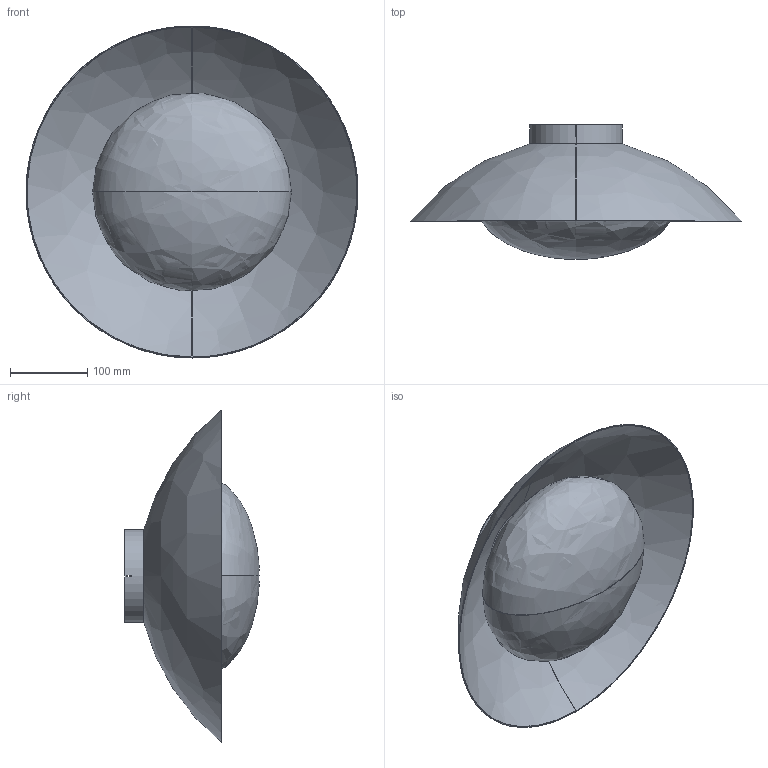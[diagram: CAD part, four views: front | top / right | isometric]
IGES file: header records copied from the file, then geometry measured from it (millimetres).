
Start section: SolidWorks IGES file using analytic representation for surfaces
Global section: file name: F:\燠隴矨\3D\2026-1\Adrienne Ceiling Lamp.IGS,15; native system: HSolidWorks 2022; preprocessor: SolidWorks 2022; author: MyPC; date: 260104.164501; units: millimetre
Bounding box: 430 x 174.53 x 430 mm (x, y, z)
Surface area: 741970.8 mm2 (no closed solid volume)
Topology: 0 solids, 0 shells, 113 faces, 1614 edges, 1605 vertices
Faces by surface type: revolution 62, bspline 51
